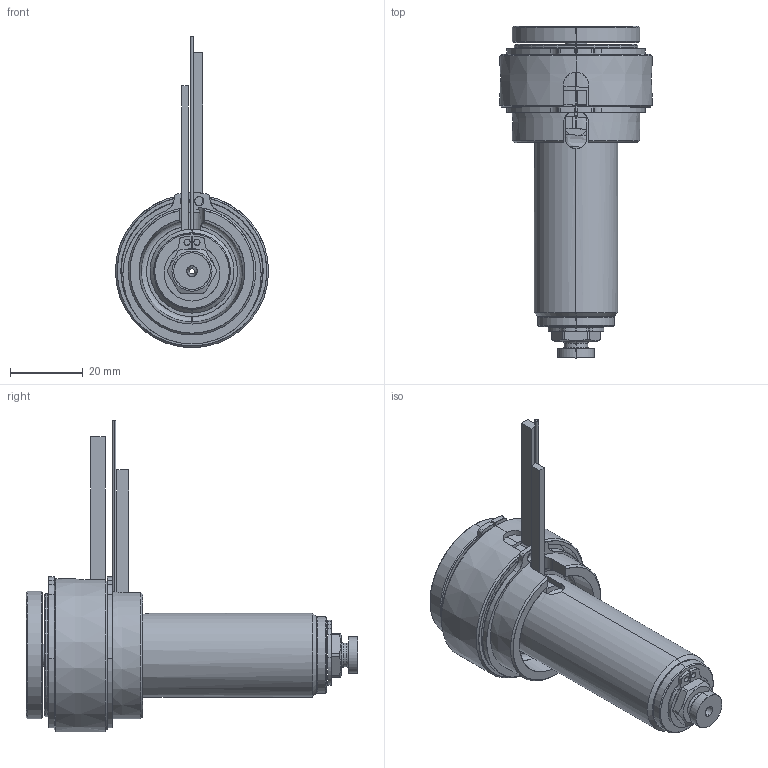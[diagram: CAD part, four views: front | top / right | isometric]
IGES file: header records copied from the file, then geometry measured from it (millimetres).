
Start section: SolidWorks IGES file using analytic representation for surfaces
Global section: file name: C:\Users\luca.EMPAD\Desktop\TEM\UGBE3501-S-A-5 [Ød-1.5 P-0 ØC-6.0].IGS; native system: SolidWorks 2012; preprocessor: SolidWorks 2012; author: luca; date: 120330.135612; units: millimetre
Bounding box: 42 x 91 x 85.4 mm (x, y, z)
Surface area: 27596.1 mm2 (no closed solid volume)
Topology: 0 solids, 0 shells, 193 faces, 3602 edges, 3602 vertices
Faces by surface type: revolution 124, bspline 69
